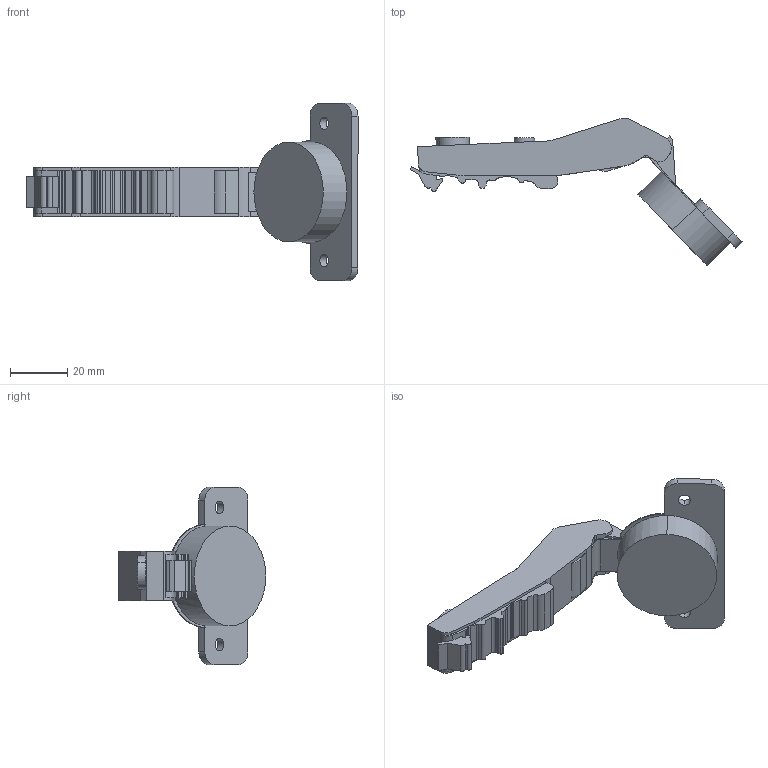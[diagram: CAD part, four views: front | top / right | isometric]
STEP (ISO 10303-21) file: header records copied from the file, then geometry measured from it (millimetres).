
FILE_DESCRIPTION (( 'STEP AP203' ), '1' );
FILE_NAME ('C82W676FA-DTC 3D open.STEP', '2024-09-07T01:56:54', ( '微软用户' ), ( '微软中国' ), 'SwSTEP 2.0', 'SolidWorks 2021', '' );
FILE_SCHEMA (( 'CONFIG_CONTROL_DESIGN' ));
Length unit declared in the file: millimetre
Products named in the file (1): C82W676FA-DTC 3D open
Bounding box: 115.98 x 51.56 x 61.96 mm (x, y, z)
Volume: 35950.4 mm3; surface area: 11723 mm2
Topology: 1 solids, 1 shells, 165 faces, 477 edges, 316 vertices
Faces by surface type: plane 85, cylinder 80
Entity records: 5563 total; most frequent: CARTESIAN_POINT 992, DIRECTION 963, ORIENTED_EDGE 954, EDGE_CURVE 477, AXIS2_PLACEMENT_3D 331, VERTEX_POINT 316, VECTOR 301, LINE 301
